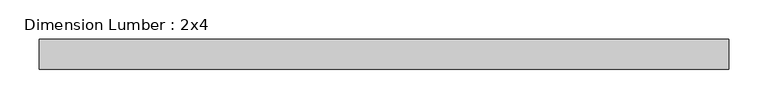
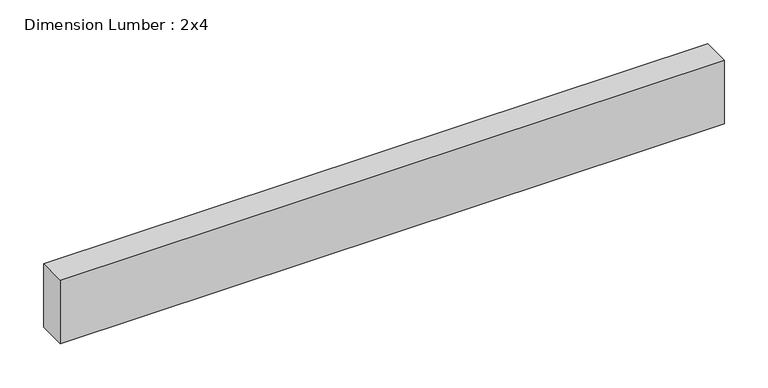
"""IFC4 building model written with IfcOpenShell, lengths in millimetres: beam geometry, Dimension Lumber : 2x4."""

import ifcopenshell
import ifcopenshell.guid

model = None  # the IFC model being written
_history = None  # IfcOwnerHistory: only IFC2X3 demands one
_inside = {}  # id of a spatial element -> (the spatial element, [elements in it])
_under = {}  # id of a project, library or spatial element -> (it, [spatial elements below it])
_declared = {}  # id of a project -> (the project, [libraries it declares])
_typed = {}  # id of a type object -> (the type object, [elements of that type])
_made_of = {}  # id of a material, layer set ... -> (it, [elements and type objects made of it])


def new_model(schema):
    """Start an empty IFC model of exactly this schema.

    Asked for "IFC4X3", IfcOpenShell would pick the latest addendum, in which some entities
    have other attributes; the version numbers below select the first issue.
    IFC2X3 requires an IfcOwnerHistory on every rooted entity: one is made here for all.
    """
    global model, _history
    if schema == "IFC4X3":
        model = ifcopenshell.file(schema_version=(4, 3, 0, 0))
    else:
        model = ifcopenshell.file(schema=schema)
    _inside.clear()
    _under.clear()
    _declared.clear()
    _typed.clear()
    _made_of.clear()
    _history = None
    if model.schema == "IFC2X3":
        org = make("IfcOrganization", Name="unknown")
        user = make(
            "IfcPersonAndOrganization",
            ThePerson=make("IfcPerson", FamilyName="unknown"),
            TheOrganization=org,
        )
        app = make(
            "IfcApplication",
            ApplicationDeveloper=org,
            Version="unknown",
            ApplicationFullName="unknown",
            ApplicationIdentifier="unknown",
        )
        _history = make(
            "IfcOwnerHistory",
            OwningUser=user,
            OwningApplication=app,
            ChangeAction="ADDED",
            CreationDate=0,
        )
    return model


def make(cls, **values):
    """One entity of the class cls with the attributes given. An attribute that is None is left unset."""
    return model.create_entity(
        cls, **{name: value for name, value in values.items() if value is not None}
    )


def rooted(cls, **values):
    """An entity with a GlobalId (a new one), such as an element, a storey or a relation."""
    return make(cls, GlobalId=ifcopenshell.guid.new(), OwnerHistory=_history, **values)


def si_unit(unit_type, name, prefix=None):
    """IfcSIUnit, for example si_unit("LENGTHUNIT", "METRE", prefix="MILLI")."""
    return make("IfcSIUnit", UnitType=unit_type, Prefix=prefix, Name=name)


def assignment(units):
    """IfcUnitAssignment: the units of a project."""
    return None if units is None else make("IfcUnitAssignment", Units=units)


def point(xyz):
    """IfcCartesianPoint."""
    return None if xyz is None else make("IfcCartesianPoint", Coordinates=xyz)


def direction(xyz):
    """IfcDirection."""
    return None if xyz is None else make("IfcDirection", DirectionRatios=xyz)


def frame(location, z_axis=None, x_axis=None):
    """IfcAxis2Placement3D, a coordinate frame: its origin and axes. An axis left out is left unset."""
    return make(
        "IfcAxis2Placement3D",
        Location=point(location),
        Axis=direction(z_axis),
        RefDirection=direction(x_axis),
    )


def origin():
    """The frame at (0, 0, 0) with its axes left unset."""
    return frame((0.0, 0.0, 0.0))


def place(relative_to, where):
    """IfcLocalPlacement: puts the frame where relative to a parent placement (None: the world)."""
    return make(
        "IfcLocalPlacement", PlacementRelTo=relative_to, RelativePlacement=where
    )


def context(
    kind, dimensions, precision=None, world=None, true_north=None, identifier=None
):
    """IfcGeometricRepresentationContext, for example the 3D "Model" context."""
    return make(
        "IfcGeometricRepresentationContext",
        ContextIdentifier=identifier,
        ContextType=kind,
        CoordinateSpaceDimension=dimensions,
        Precision=precision,
        WorldCoordinateSystem=world,
        TrueNorth=true_north,
    )


def project(units=None, contexts=None):
    """IfcProject with its units and contexts."""
    return rooted(
        "IfcProject",
        Name="project",
        RepresentationContexts=contexts,
        UnitsInContext=assignment(units),
    )


def spatial(cls, under=None, at=None, **own):
    """A site, building, storey or space (cls), placed at a placement, below another one or the project."""
    s = rooted(cls, ObjectPlacement=at, **own)
    if under is not None:
        _under.setdefault(under.id(), (under, []))[1].append(s)
    return s


def polyline(points):
    """IfcPolyline through the points."""
    return make("IfcPolyline", Points=[point(p) for p in points])


def outline(outer, holes=None, kind="AREA"):
    """IfcArbitraryClosedProfileDef: a profile drawn as a closed curve; with holes, ...WithVoids."""
    if holes is None:
        return make("IfcArbitraryClosedProfileDef", ProfileType=kind, OuterCurve=outer)
    return make(
        "IfcArbitraryProfileDefWithVoids",
        ProfileType=kind,
        OuterCurve=outer,
        InnerCurves=holes,
    )


def extrude(swept, where, along, depth):
    """IfcExtrudedAreaSolid: the profile swept, set in the frame where, extruded along a direction by depth."""
    return make(
        "IfcExtrudedAreaSolid",
        SweptArea=swept,
        Position=where,
        ExtrudedDirection=direction(along),
        Depth=depth,
    )


def shape(context_of_items, identifier, shape_type, items):
    """IfcShapeRepresentation: the items that make up one representation, for example the "Body"."""
    return make(
        "IfcShapeRepresentation",
        ContextOfItems=context_of_items,
        RepresentationIdentifier=identifier,
        RepresentationType=shape_type,
        Items=items,
    )


def source(mapping_origin, context_of_items, identifier, shape_type, items):
    """IfcRepresentationMap: a shape defined once, which mapped items show again and again."""
    return make(
        "IfcRepresentationMap",
        MappingOrigin=mapping_origin,
        MappedRepresentation=shape(context_of_items, identifier, shape_type, items),
    )


def transform(
    local_origin,
    x_axis=None,
    y_axis=None,
    z_axis=None,
    scale=None,
    scale2=None,
    scale3=None,
    uniform=True,
):
    """IfcCartesianTransformationOperator3D, or its non-uniform kind. x_axis, y_axis, z_axis: its Axis1, 2, 3."""
    if uniform:
        return make(
            "IfcCartesianTransformationOperator3D",
            Axis1=direction(x_axis),
            Axis2=direction(y_axis),
            LocalOrigin=point(local_origin),
            Scale=scale,
            Axis3=direction(z_axis),
        )
    return make(
        "IfcCartesianTransformationOperator3DnonUniform",
        Axis1=direction(x_axis),
        Axis2=direction(y_axis),
        LocalOrigin=point(local_origin),
        Scale=scale,
        Axis3=direction(z_axis),
        Scale2=scale2,
        Scale3=scale3,
    )


def mapped(mapping_source, mapping_target):
    """IfcMappedItem: shows the shape of a source again, moved by a transform."""
    return make(
        "IfcMappedItem", MappingSource=mapping_source, MappingTarget=mapping_target
    )


def made_of(thing, what):
    """Note that an element or type object is made of a material, layer set ...; save() writes the relation."""
    if what is not None:
        _made_of.setdefault(what.id(), (what, []))[1].append(thing)
    return thing


def element(
    cls,
    number,
    at=None,
    inside=None,
    cuts=None,
    type_object=None,
    material=None,
    context=None,
    identifier="Body",
    shape_type=None,
    held_by="IfcProductDefinitionShape",
    body=None,
    shapes=None,
    **own,
):
    """One element of the class cls, such as IfcWall. Its Tag is "e" and its number.

    at: its placement. inside: the storey or other place that contains it. cuts: it is an
    opening in that element (IfcRelVoidsElement). A single representation is given by context,
    identifier, shape_type and body (its items); several are given by shapes. held_by: the class
    of the entity that holds the representations. save() writes the other relations.
    """
    e = rooted(cls, Tag="e%d" % number, ObjectPlacement=at, **own)
    if body is not None:
        shapes = [shape(context, identifier, shape_type, body)]
    if shapes is not None:
        e.Representation = make(held_by, Representations=shapes)
    if inside is not None:
        _inside.setdefault(inside.id(), (inside, []))[1].append(e)
    if cuts is not None:
        rooted(
            "IfcRelVoidsElement", RelatingBuildingElement=cuts, RelatedOpeningElement=e
        )
    if type_object is not None:
        _typed.setdefault(type_object.id(), (type_object, []))[1].append(e)
    return made_of(e, material)


def aggregate(whole, parts):
    """IfcRelAggregates: a whole, such as a stair, and the parts it consists of."""
    return rooted("IfcRelAggregates", RelatingObject=whole, RelatedObjects=parts)


def save(model, path):
    """Write the relations noted so far, then the file.

    IfcRelAggregates (storeys below a building ...), IfcRelContainedInSpatialStructure (elements
    in a storey), IfcRelDefinesByType, IfcRelAssociatesMaterial and IfcRelDeclares: one each for
    every whole, place, type object, material and project.
    """
    for whole, parts in _under.values():
        aggregate(whole, parts)
    for where, things in _inside.values():
        rooted(
            "IfcRelContainedInSpatialStructure",
            RelatedElements=things,
            RelatingStructure=where,
        )
    for kind, things in _typed.values():
        rooted("IfcRelDefinesByType", RelatedObjects=things, RelatingType=kind)
    for what, things in _made_of.values():
        rooted("IfcRelAssociatesMaterial", RelatedObjects=things, RelatingMaterial=what)
    for by, libraries in _declared.values():
        rooted("IfcRelDeclares", RelatingContext=by, RelatedDefinitions=libraries)
    model.write(path)


def dimension_lumber_2x4_fb74974d(model_context):
    return source(origin(), model_context, "Body", "SweptSolid", [
        extrude(outline(polyline([(419.1, 19.05), (419.1, -19.05), (-457.2, -19.05), (-457.2, 19.05), (419.1, 19.05)])), frame((0.0, 0.0, -44.45), z_axis=(0.0, 0.0, 1.0), x_axis=(1.0, 0.0, 0.0)), (0.0, 0.0, 1.0), 88.9),
    ])


if __name__ == "__main__":
    model = new_model("IFC4")
    model_context = context("Model", 3, world=origin())
    ifc_project = project(units=[si_unit("LENGTHUNIT", "METRE", prefix="MILLI")], contexts=[model_context])
    site = spatial("IfcSite", under=ifc_project)
    building = spatial("IfcBuilding", under=site)
    placement = place(None, origin())
    dimension_lumber_2x4_shape = dimension_lumber_2x4_fb74974d(model_context)
    element("IfcBeam", 1, ObjectType="Dimension Lumber : 2x4", at=placement, inside=building, context=model_context, shape_type="MappedRepresentation", body=[
        mapped(dimension_lumber_2x4_shape, transform((0.0, 0.0, 0.0), x_axis=(1.0, 0.0, 0.0), y_axis=(0.0, 1.0, 0.0), z_axis=(0.0, 0.0, 1.0))),
    ])
    save(model, "model.ifc")
